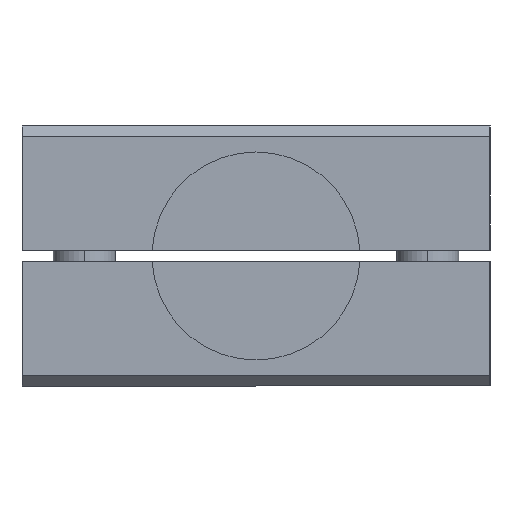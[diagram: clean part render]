
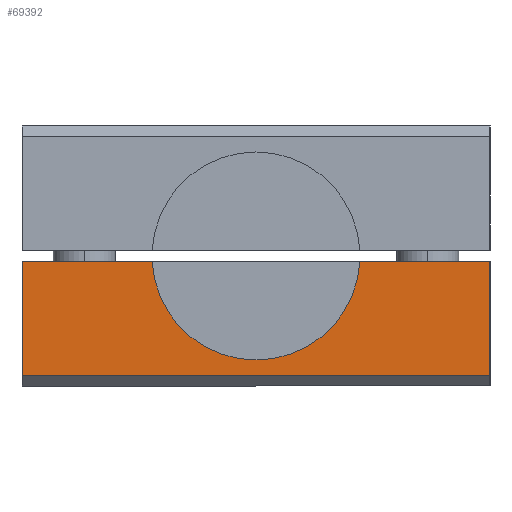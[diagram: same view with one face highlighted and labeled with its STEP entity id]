
A CAD part, left-side view. The second image highlights one B-rep face of the part: STEP entity #69392.
In plain terms, the highlighted planar face has unit normal (-1, 0, 0).
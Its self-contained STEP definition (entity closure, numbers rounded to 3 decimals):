
#2 = ORIENTED_EDGE ( 'NONE', *, *, #63582, .F. ) ;
#1114 = DIRECTION ( 'NONE',  ( 0., -1., 0. ) ) ;
#2555 = ORIENTED_EDGE ( 'NONE', *, *, #56171, .F. ) ;
#3299 = DIRECTION ( 'NONE',  ( -1., 0., 0. ) ) ;
#3717 = VERTEX_POINT ( 'NONE', #12352 ) ;
#4772 = EDGE_CURVE ( 'NONE', #42181, #9364, #64144, .T. ) ;
#5455 = AXIS2_PLACEMENT_3D ( 'NONE', #35243, #3299, #40615 ) ;
#8409 = CARTESIAN_POINT ( 'NONE',  ( 0.619, 15.171, -0.5 ) ) ;
#8453 = PLANE ( 'NONE',  #5455 ) ;
#9364 = VERTEX_POINT ( 'NONE', #9423 ) ;
#9423 = CARTESIAN_POINT ( 'NONE',  ( 0.619, 37.671, -0.5 ) ) ;
#12352 = CARTESIAN_POINT ( 'NONE',  ( 0.619, 5.183, -0.5 ) ) ;
#12527 = VERTEX_POINT ( 'NONE', #42270 ) ;
#12900 = EDGE_CURVE ( 'NONE', #3717, #31628, #54574, .T. ) ;
#13291 = CARTESIAN_POINT ( 'NONE',  ( 0.619, 15.171, 0. ) ) ;
#13451 = DIRECTION ( 'NONE',  ( 0., -1., 0. ) ) ;
#13502 = VECTOR ( 'NONE', #13451, 1000. ) ;
#16451 = CARTESIAN_POINT ( 'NONE',  ( 0.619, -7.329, -11.5 ) ) ;
#17441 = DIRECTION ( 'NONE',  ( 0., 0., 1. ) ) ;
#18641 = DIRECTION ( 'NONE',  ( 0., 0., 1. ) ) ;
#19331 = VECTOR ( 'NONE', #62359, 1000. ) ;
#21650 = ORIENTED_EDGE ( 'NONE', *, *, #31940, .T. ) ;
#23061 = EDGE_LOOP ( 'NONE', ( #21650, #2, #60227, #24214, #2555, #65542 ) ) ;
#24214 = ORIENTED_EDGE ( 'NONE', *, *, #42795, .F. ) ;
#26435 = LINE ( 'NONE', #48031, #38967 ) ;
#30246 = CARTESIAN_POINT ( 'NONE',  ( 0.619, 15.171, -11.5 ) ) ;
#31115 = CARTESIAN_POINT ( 'NONE',  ( 0.619, -7.329, -0.5 ) ) ;
#31628 = VERTEX_POINT ( 'NONE', #31115 ) ;
#31940 = EDGE_CURVE ( 'NONE', #3717, #12527, #65194, .T. ) ;
#35243 = CARTESIAN_POINT ( 'NONE',  ( 0.619, -7.329, -11.5 ) ) ;
#38967 = VECTOR ( 'NONE', #53382, 1000. ) ;
#40615 = DIRECTION ( 'NONE',  ( 0., 0., 1. ) ) ;
#42181 = VERTEX_POINT ( 'NONE', #62861 ) ;
#42270 = CARTESIAN_POINT ( 'NONE',  ( 0.619, 25.158, -0.5 ) ) ;
#42795 = EDGE_CURVE ( 'NONE', #68569, #42181, #44498, .T. ) ;
#43004 = FACE_OUTER_BOUND ( 'NONE', #23061, .T. ) ;
#44498 = LINE ( 'NONE', #30246, #19331 ) ;
#45662 = AXIS2_PLACEMENT_3D ( 'NONE', #13291, #50753, #18641 ) ;
#48031 = CARTESIAN_POINT ( 'NONE',  ( 0.619, -7.329, -6.5 ) ) ;
#48052 = VECTOR ( 'NONE', #1114, 1000. ) ;
#48234 = VECTOR ( 'NONE', #17441, 1000. ) ;
#49033 = CARTESIAN_POINT ( 'NONE',  ( 0.619, 15.171, -0.5 ) ) ;
#50753 = DIRECTION ( 'NONE',  ( 1., 0., 0. ) ) ;
#53382 = DIRECTION ( 'NONE',  ( 0., 0., -1. ) ) ;
#54574 = LINE ( 'NONE', #8409, #13502 ) ;
#54923 = CARTESIAN_POINT ( 'NONE',  ( 0.619, 37.671, -6.5 ) ) ;
#56171 = EDGE_CURVE ( 'NONE', #31628, #68569, #26435, .T. ) ;
#60227 = ORIENTED_EDGE ( 'NONE', *, *, #4772, .F. ) ;
#62359 = DIRECTION ( 'NONE',  ( 0., 1., 0. ) ) ;
#62861 = CARTESIAN_POINT ( 'NONE',  ( 0.619, 37.671, -11.5 ) ) ;
#63582 = EDGE_CURVE ( 'NONE', #9364, #12527, #63964, .T. ) ;
#63964 = LINE ( 'NONE', #49033, #48052 ) ;
#64144 = LINE ( 'NONE', #54923, #48234 ) ;
#65194 = CIRCLE ( 'NONE', #45662, 10. ) ;
#65542 = ORIENTED_EDGE ( 'NONE', *, *, #12900, .F. ) ;
#68569 = VERTEX_POINT ( 'NONE', #16451 ) ;
#69392 = ADVANCED_FACE ( 'NONE', ( #43004 ), #8453, .T. ) ;
